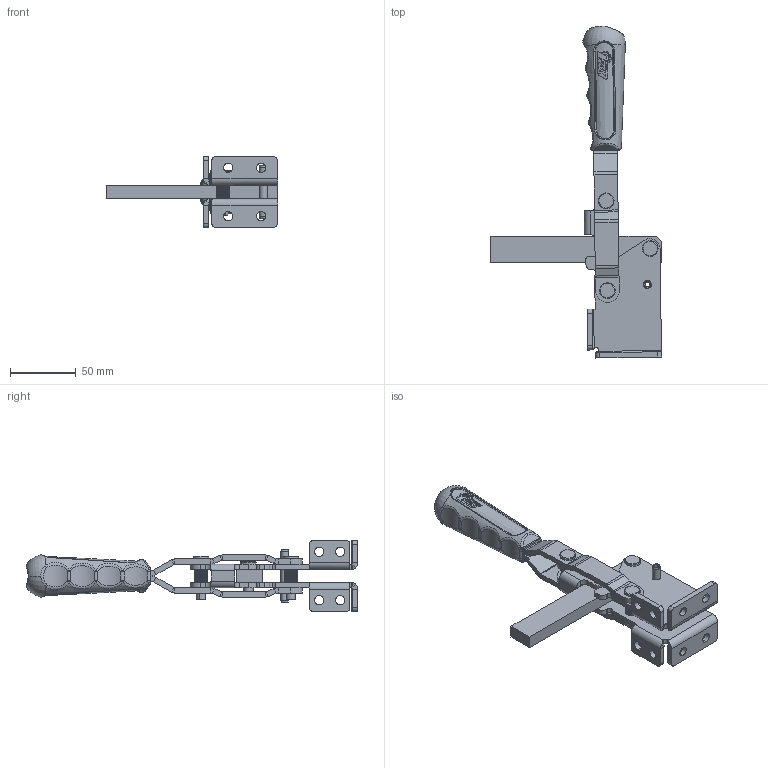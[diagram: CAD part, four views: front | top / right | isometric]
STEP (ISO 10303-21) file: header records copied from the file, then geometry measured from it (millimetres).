
FILE_DESCRIPTION (( 'STEP AP214' ), '1' );
FILE_NAME ('203_YL.STEP', '2024-09-09T16:29:16', ( '' ), ( '' ), 'SwSTEP 2.0', 'SolidWorks 2023', '' );
FILE_SCHEMA (( 'AUTOMOTIVE_DESIGN' ));
Length unit declared in the file: millimetre
Products named in the file (12): FZK_203_B_06_00; FZK_203_B_02_00; FZK_203_B_03_00; FZK_203_B_07_00; 203_YL; FZK_203_B_03A_00; FZK_203_YL_02_00; FZK_203_B_05_00; FZK_203_YL_01_00; TTMK_03_00; Ø6x40 YARIKLI PİM; FZK_203_B_04_00
Assembly tree (15 placements, depth 3):
  203_YL
    FZK_203_B_04_00  x2
    FZK_203_YL_01_00
    FZK_203_YL_02_00
    Ø6x40 YARIKLI PİM
    FZK_203_B_06_00  x2
    FZK_203_B_07_00  x2
    TTMK_03_00
    FZK_203_B_05_00
    FZK_203_B_02_00
    FZK_203_B_03_00
      FZK_203_B_03A_00  x2
Bounding box: 130.11 x 252.54 x 54.01 mm (x, y, z)
Volume: 153211.4 mm3; surface area: 76788.1 mm2
Topology: 14 solids, 14 shells, 1256 faces, 3406 edges, 2181 vertices
Faces by surface type: cylinder 788, bspline 221, plane 178, cone 43, sphere 20, torus 6
Entity records: 44295 total; most frequent: CARTESIAN_POINT 25403, ORIENTED_EDGE 4564, DIRECTION 2732, EDGE_CURVE 2282, VERTEX_POINT 1463, B_SPLINE_CURVE_WITH_KNOTS 1220, AXIS2_PLACEMENT_3D 1029, EDGE_LOOP 919
